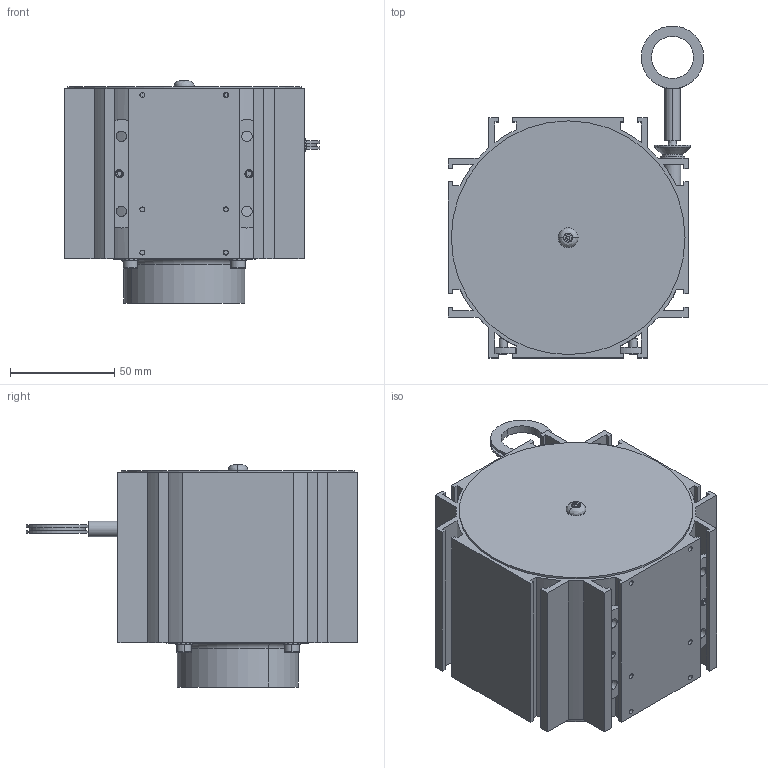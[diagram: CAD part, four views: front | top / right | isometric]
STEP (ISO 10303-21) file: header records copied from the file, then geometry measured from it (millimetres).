
FILE_DESCRIPTION((''),'2;1');
FILE_NAME('WDS-5000-P115-M-SO_SW0004','2010-10-12T',('15000411'),(''),'PRO/ENGINEER BY PARAMETRIC TECHNOLOGY CORPORATION, 2010020','PRO/ENGINEER BY PARAMETRIC TECHNOLOGY CORPORATION, 2010020','');
FILE_SCHEMA(('CONFIG_CONTROL_DESIGN'));
Length unit declared in the file: millimetre
Products named in the file (1): WDS-5000-P115-M-SO_SW0004
Bounding box: 122.5 x 159 x 106.45 mm (x, y, z)
Volume: 124260.9 mm3; surface area: 144757 mm2
Topology: 16 solids, 18 shells, 920 faces, 2524 edges, 1636 vertices
Faces by surface type: plane 518, cylinder 244, cone 68, torus 42, sphere 26, revolution 16, extrusion 4, bspline 2
Entity records: 32686 total; most frequent: CARTESIAN_POINT 9164, ORIENTED_EDGE 5024, DIRECTION 4762, EDGE_CURVE 2512, AXIS2_PLACEMENT_3D 1752, VERTEX_POINT 1636, VECTOR 1242, LINE 1238
